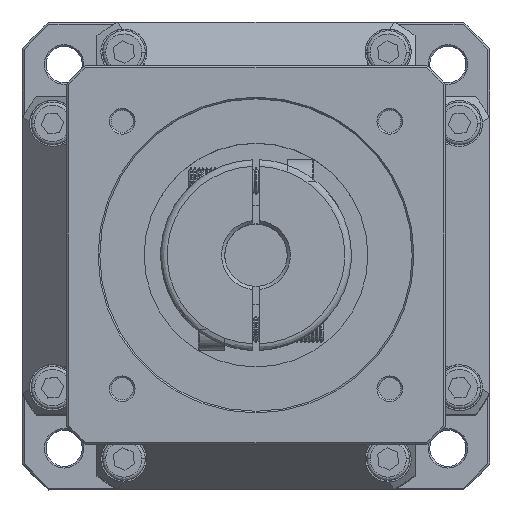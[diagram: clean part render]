
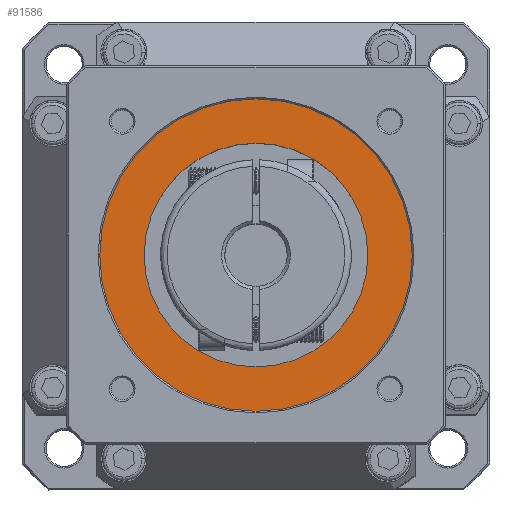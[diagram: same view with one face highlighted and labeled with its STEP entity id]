
A CAD part, top view. The second image highlights one B-rep face of the part: STEP entity #91586.
In plain terms, the highlighted planar face has unit normal (0, 0, -1).
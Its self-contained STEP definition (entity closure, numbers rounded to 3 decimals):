
#894 = CARTESIAN_POINT ( 'NONE',  ( 0., -47.5, 237. ) ) ;
#1269 = ORIENTED_EDGE ( 'NONE', *, *, #46547, .T. ) ;
#3802 = VERTEX_POINT ( 'NONE', #56261 ) ;
#3906 = CARTESIAN_POINT ( 'NONE',  ( 0., 0., 237. ) ) ;
#4194 = AXIS2_PLACEMENT_3D ( 'NONE', #80939, #31628, #89160 ) ;
#6494 = FACE_BOUND ( 'NONE', #32903, .T. ) ;
#12151 = DIRECTION ( 'NONE',  ( 0., 1., 0. ) ) ;
#13505 = ORIENTED_EDGE ( 'NONE', *, *, #71200, .T. ) ;
#15074 = CARTESIAN_POINT ( 'NONE',  ( 0., -34., 237. ) ) ;
#19242 = VERTEX_POINT ( 'NONE', #43733 ) ;
#25938 = CIRCLE ( 'NONE', #45309, 34. ) ;
#27779 = CARTESIAN_POINT ( 'NONE',  ( 0., 0., 237. ) ) ;
#28223 = AXIS2_PLACEMENT_3D ( 'NONE', #85281, #36005, #93460 ) ;
#31628 = DIRECTION ( 'NONE',  ( 0., 0., 1. ) ) ;
#32903 = EDGE_LOOP ( 'NONE', ( #94517, #89116 ) ) ;
#36005 = DIRECTION ( 'NONE',  ( 0., 0., 1. ) ) ;
#36067 = DIRECTION ( 'NONE',  ( 0., -1., 0. ) ) ;
#39099 = EDGE_CURVE ( 'NONE', #3802, #60431, #25938, .T. ) ;
#42095 = EDGE_LOOP ( 'NONE', ( #13505, #1269 ) ) ;
#43733 = CARTESIAN_POINT ( 'NONE',  ( 0., 47.5, 237. ) ) ;
#43973 = PLANE ( 'NONE',  #28223 ) ;
#45309 = AXIS2_PLACEMENT_3D ( 'NONE', #3906, #61411, #12151 ) ;
#45525 = DIRECTION ( 'NONE',  ( 0., 0., -1. ) ) ;
#46547 = EDGE_CURVE ( 'NONE', #19242, #75860, #87833, .T. ) ;
#47708 = FACE_OUTER_BOUND ( 'NONE', #42095, .T. ) ;
#56261 = CARTESIAN_POINT ( 'NONE',  ( 0., 34., 237. ) ) ;
#60377 = EDGE_CURVE ( 'NONE', #60431, #3802, #86190, .T. ) ;
#60431 = VERTEX_POINT ( 'NONE', #15074 ) ;
#61411 = DIRECTION ( 'NONE',  ( 0., 0., 1. ) ) ;
#61669 = AXIS2_PLACEMENT_3D ( 'NONE', #27779, #85343, #36067 ) ;
#71200 = EDGE_CURVE ( 'NONE', #75860, #19242, #103350, .T. ) ;
#75860 = VERTEX_POINT ( 'NONE', #894 ) ;
#80939 = CARTESIAN_POINT ( 'NONE',  ( 0., 0., 237. ) ) ;
#85281 = CARTESIAN_POINT ( 'NONE',  ( -48.07, -48.07, 237. ) ) ;
#85343 = DIRECTION ( 'NONE',  ( 0., 0., -1. ) ) ;
#86190 = CIRCLE ( 'NONE', #4194, 34. ) ;
#87833 = CIRCLE ( 'NONE', #61669, 47.5 ) ;
#89116 = ORIENTED_EDGE ( 'NONE', *, *, #60377, .T. ) ;
#89160 = DIRECTION ( 'NONE',  ( 0., 1., 0. ) ) ;
#91586 = ADVANCED_FACE ( 'NONE', ( #6494, #47708 ), #43973, .F. ) ;
#93460 = DIRECTION ( 'NONE',  ( 1., 0., 0. ) ) ;
#94517 = ORIENTED_EDGE ( 'NONE', *, *, #39099, .T. ) ;
#94670 = CARTESIAN_POINT ( 'NONE',  ( 0., 0., 237. ) ) ;
#97889 = AXIS2_PLACEMENT_3D ( 'NONE', #94670, #45525, #102868 ) ;
#102868 = DIRECTION ( 'NONE',  ( 0., -1., 0. ) ) ;
#103350 = CIRCLE ( 'NONE', #97889, 47.5 ) ;
